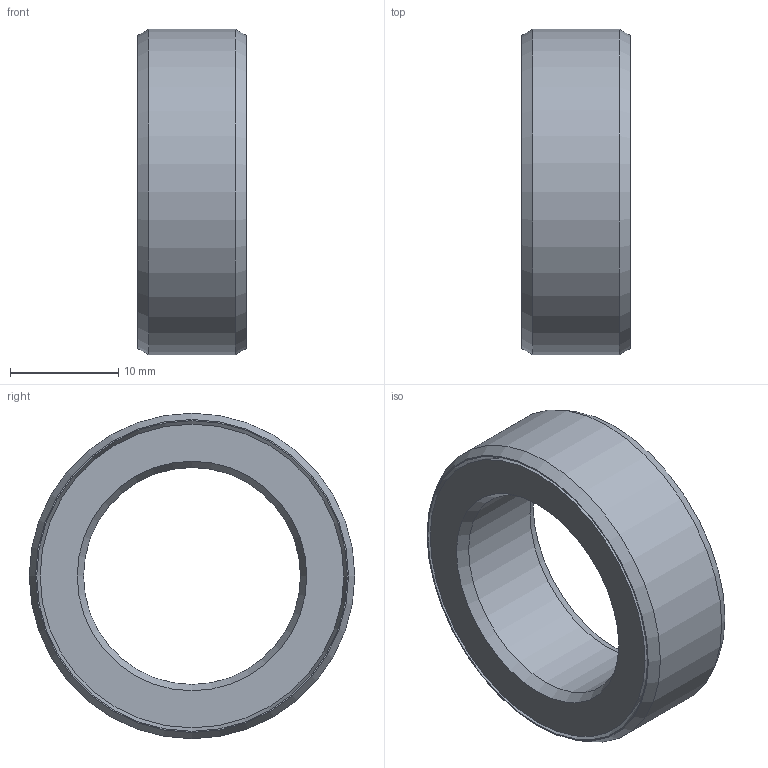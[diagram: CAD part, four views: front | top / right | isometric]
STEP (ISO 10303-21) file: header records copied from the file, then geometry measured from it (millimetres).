
FILE_DESCRIPTION(/* description */ (''),/* implementation_level */ '2;1');
FILE_NAME(/* name */ '301180 L 20x30x10.stp',/* time_stamp */ '2016-12-15T09:09:10+01:00',/* author */ (''),/* organization */ (''),/* preprocessor_version */ 'ST-DEVELOPER v15',/* originating_system */ 'SIEMENS PLM Software NX 8.5',/* authorisation */ '');
FILE_SCHEMA (('CONFIG_CONTROL_DESIGN'));
Length unit declared in the file: millimetre
Products named in the file (1): ATE0000122_01
Bounding box: 10 x 30 x 30 mm (x, y, z)
Volume: 3538 mm3; surface area: 4155.1 mm2
Topology: 2 solids, 2 shells, 18 faces, 34 edges, 20 vertices
Faces by surface type: cone 12, plane 4, cylinder 2
Full cylindrical faces by diameter (mm): 20 x1, 30 x1
Entity records: 454 total; most frequent: DIRECTION 74, CARTESIAN_POINT 55, AXIS2_PLACEMENT_3D 37, FACE_BOUND 36, EDGE_LOOP 36, ORIENTED_EDGE 36, ADVANCED_FACE 18, VERTEX_POINT 18
